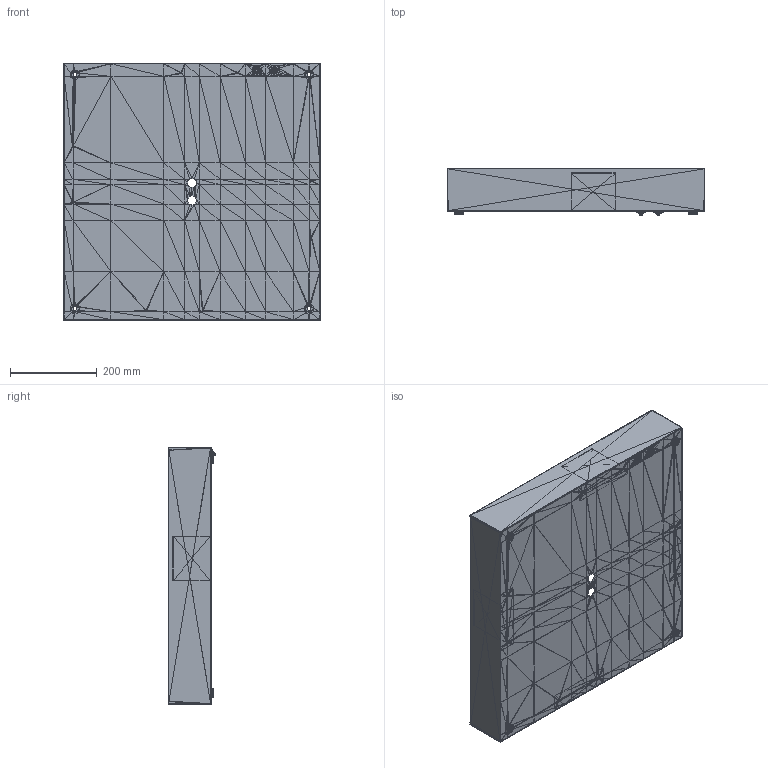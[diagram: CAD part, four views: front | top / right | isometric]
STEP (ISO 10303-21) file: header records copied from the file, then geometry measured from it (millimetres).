
FILE_DESCRIPTION((''),'2;1');
FILE_NAME('057533', '2025-07-28T09:01:52', (''), (''), 'ImageToStl.com STEP Converter','', '');
FILE_SCHEMA(('AUTOMOTIVE_DESIGN_CC2'));
Length unit declared in the file: metre
Products named in the file (1): product0
Bounding box: 593 x 110.3 x 594.1 mm (x, y, z)
Surface area: 1360802.3 mm2 (no closed solid volume)
Topology: 0 solids, 27458 shells, 27458 faces, 82374 edges, 13691 vertices
Faces by surface type: plane 27458
Entity records: 631486 total; most frequent: DIRECTION 137292, ORIENTED_EDGE 82374, EDGE_CURVE 82374, LINE 82374, VECTOR 82374, AXIS2_PLACEMENT_3D 27459, FACE_SURFACE 27458, PLANE 27458
